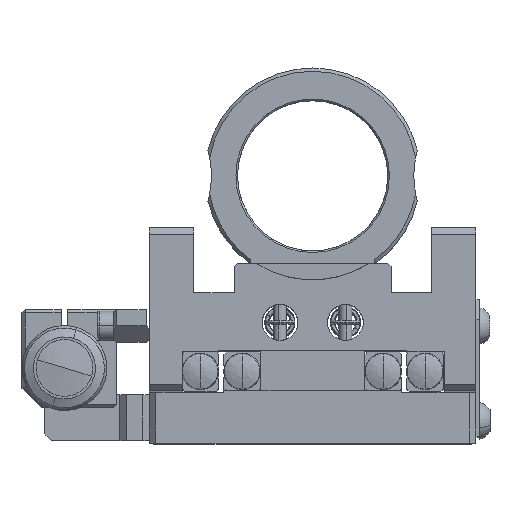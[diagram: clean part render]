
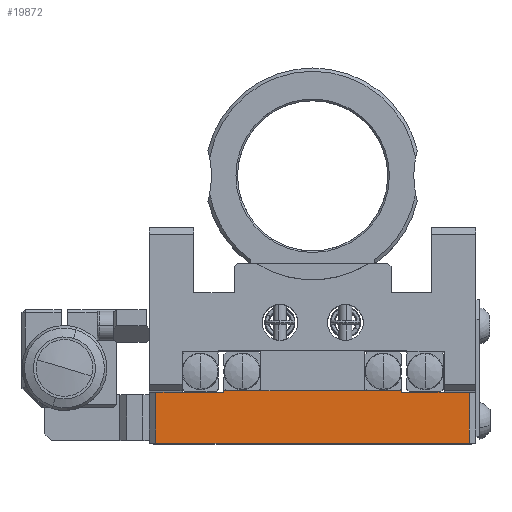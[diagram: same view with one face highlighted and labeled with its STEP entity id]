
A CAD part, top view. The second image highlights one B-rep face of the part: STEP entity #19872.
In plain terms, the highlighted planar face has unit normal (0, 0, 1).
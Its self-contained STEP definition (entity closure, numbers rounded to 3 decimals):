
#849 = DIRECTION ( 'NONE',  ( 0., -1., 0. ) ) ;
#1633 = ORIENTED_EDGE ( 'NONE', *, *, #33730, .T. ) ;
#3055 = EDGE_CURVE ( 'NONE', #29636, #51455, #28087, .T. ) ;
#3452 = LINE ( 'NONE', #23896, #4686 ) ;
#4686 = VECTOR ( 'NONE', #53441, 1000. ) ;
#5395 = VERTEX_POINT ( 'NONE', #8969 ) ;
#5948 = CARTESIAN_POINT ( 'NONE',  ( 0., -0.2, 33. ) ) ;
#6312 = VECTOR ( 'NONE', #11540, 1000. ) ;
#6765 = VECTOR ( 'NONE', #44022, 1000. ) ;
#7759 = LINE ( 'NONE', #36164, #34762 ) ;
#7828 = EDGE_CURVE ( 'NONE', #41724, #29636, #7759, .T. ) ;
#8969 = CARTESIAN_POINT ( 'NONE',  ( 13.6, 0., 33. ) ) ;
#9148 = CARTESIAN_POINT ( 'NONE',  ( -13.6, -8., 33. ) ) ;
#9816 = CARTESIAN_POINT ( 'NONE',  ( -24., -8., 33. ) ) ;
#10361 = ORIENTED_EDGE ( 'NONE', *, *, #28878, .F. ) ;
#11210 = CARTESIAN_POINT ( 'NONE',  ( -24., -0.2, 33. ) ) ;
#11540 = DIRECTION ( 'NONE',  ( 0., 1., 0. ) ) ;
#12010 = VECTOR ( 'NONE', #40263, 1000. ) ;
#13124 = VECTOR ( 'NONE', #849, 1000. ) ;
#14776 = LINE ( 'NONE', #5948, #48306 ) ;
#15028 = ORIENTED_EDGE ( 'NONE', *, *, #34452, .T. ) ;
#15542 = CARTESIAN_POINT ( 'NONE',  ( -13.6, 0., 33. ) ) ;
#15776 = DIRECTION ( 'NONE',  ( 1., 0., 0. ) ) ;
#18497 = CARTESIAN_POINT ( 'NONE',  ( 0., -0.2, 33. ) ) ;
#19204 = CARTESIAN_POINT ( 'NONE',  ( 24., -0.2, 33. ) ) ;
#19517 = CARTESIAN_POINT ( 'NONE',  ( 0., -8., 33. ) ) ;
#19872 = ADVANCED_FACE ( 'NONE', ( #36856 ), #44616, .T. ) ;
#20078 = CARTESIAN_POINT ( 'NONE',  ( 24., -8., 33. ) ) ;
#20205 = ORIENTED_EDGE ( 'NONE', *, *, #28140, .T. ) ;
#21036 = CARTESIAN_POINT ( 'NONE',  ( 13.6, -0.2, 33. ) ) ;
#22108 = LINE ( 'NONE', #9148, #13124 ) ;
#22362 = VERTEX_POINT ( 'NONE', #11210 ) ;
#22793 = CARTESIAN_POINT ( 'NONE',  ( 0., 0., 33. ) ) ;
#23896 = CARTESIAN_POINT ( 'NONE',  ( 13.6, -8., 33. ) ) ;
#23903 = EDGE_LOOP ( 'NONE', ( #1633, #20205, #31684, #35553, #46994, #10361, #30167, #15028 ) ) ;
#24848 = DIRECTION ( 'NONE',  ( 0., -1., 0. ) ) ;
#27308 = CARTESIAN_POINT ( 'NONE',  ( 24., -8., 33. ) ) ;
#28087 = LINE ( 'NONE', #20078, #6312 ) ;
#28140 = EDGE_CURVE ( 'NONE', #22362, #41724, #29249, .T. ) ;
#28589 = AXIS2_PLACEMENT_3D ( 'NONE', #19517, #36317, #37383 ) ;
#28878 = EDGE_CURVE ( 'NONE', #5395, #36714, #3452, .T. ) ;
#29249 = LINE ( 'NONE', #46088, #50285 ) ;
#29566 = EDGE_CURVE ( 'NONE', #36714, #51455, #44131, .T. ) ;
#29636 = VERTEX_POINT ( 'NONE', #27308 ) ;
#30167 = ORIENTED_EDGE ( 'NONE', *, *, #52505, .F. ) ;
#31587 = DIRECTION ( 'NONE',  ( -1., 0., 0. ) ) ;
#31684 = ORIENTED_EDGE ( 'NONE', *, *, #7828, .T. ) ;
#33730 = EDGE_CURVE ( 'NONE', #39928, #22362, #14776, .T. ) ;
#34452 = EDGE_CURVE ( 'NONE', #35363, #39928, #22108, .T. ) ;
#34762 = VECTOR ( 'NONE', #15776, 1000. ) ;
#35190 = LINE ( 'NONE', #22793, #6765 ) ;
#35363 = VERTEX_POINT ( 'NONE', #15542 ) ;
#35553 = ORIENTED_EDGE ( 'NONE', *, *, #3055, .T. ) ;
#36164 = CARTESIAN_POINT ( 'NONE',  ( 0., -8., 33. ) ) ;
#36317 = DIRECTION ( 'NONE',  ( 0., 0., 1. ) ) ;
#36714 = VERTEX_POINT ( 'NONE', #21036 ) ;
#36856 = FACE_OUTER_BOUND ( 'NONE', #23903, .T. ) ;
#37383 = DIRECTION ( 'NONE',  ( 1., 0., 0. ) ) ;
#39928 = VERTEX_POINT ( 'NONE', #47674 ) ;
#40263 = DIRECTION ( 'NONE',  ( 1., 0., 0. ) ) ;
#41724 = VERTEX_POINT ( 'NONE', #9816 ) ;
#44022 = DIRECTION ( 'NONE',  ( 1., 0., 0. ) ) ;
#44131 = LINE ( 'NONE', #18497, #12010 ) ;
#44616 = PLANE ( 'NONE',  #28589 ) ;
#46088 = CARTESIAN_POINT ( 'NONE',  ( -24., -8., 33. ) ) ;
#46994 = ORIENTED_EDGE ( 'NONE', *, *, #29566, .F. ) ;
#47674 = CARTESIAN_POINT ( 'NONE',  ( -13.6, -0.2, 33. ) ) ;
#48306 = VECTOR ( 'NONE', #31587, 1000. ) ;
#50285 = VECTOR ( 'NONE', #24848, 1000. ) ;
#51455 = VERTEX_POINT ( 'NONE', #19204 ) ;
#52505 = EDGE_CURVE ( 'NONE', #35363, #5395, #35190, .T. ) ;
#53441 = DIRECTION ( 'NONE',  ( 0., -1., 0. ) ) ;
